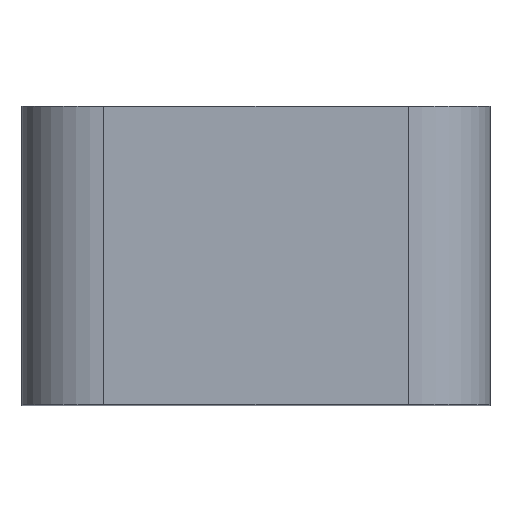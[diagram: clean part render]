
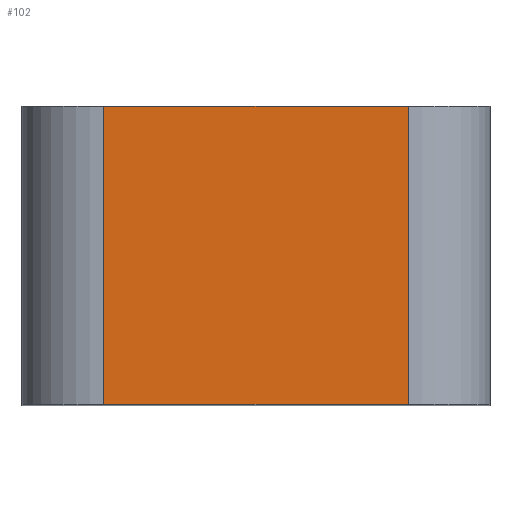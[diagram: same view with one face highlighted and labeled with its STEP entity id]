
A CAD part, top view. The second image highlights one B-rep face of the part: STEP entity #102.
In plain terms, the highlighted planar face has unit normal (0, 0, 1).
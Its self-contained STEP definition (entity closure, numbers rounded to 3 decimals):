
#102 = ADVANCED_FACE( '', ( #187 ), #188, .T. );
#187 = FACE_OUTER_BOUND( '', #296, .T. );
#188 = PLANE( '', #297 );
#296 = EDGE_LOOP( '', ( #579, #580, #581, #582 ) );
#297 = AXIS2_PLACEMENT_3D( '', #583, #584, #585 );
#579 = ORIENTED_EDGE( '', *, *, #815, .F. );
#580 = ORIENTED_EDGE( '', *, *, #816, .T. );
#581 = ORIENTED_EDGE( '', *, *, #733, .T. );
#582 = ORIENTED_EDGE( '', *, *, #814, .T. );
#583 = CARTESIAN_POINT( '', ( -16., 5.1, 7. ) );
#584 = DIRECTION( '', ( 0., 0., 1. ) );
#585 = DIRECTION( '', ( 1., 0., 0. ) );
#733 = EDGE_CURVE( '', #866, #867, #868, .T. );
#814 = EDGE_CURVE( '', #867, #1002, #1004, .F. );
#815 = EDGE_CURVE( '', #1005, #1002, #1006, .T. );
#816 = EDGE_CURVE( '', #1005, #866, #1007, .T. );
#866 = VERTEX_POINT( '', #1076 );
#867 = VERTEX_POINT( '', #1077 );
#868 = LINE( '', #1078, #1079 );
#1002 = VERTEX_POINT( '', #1280 );
#1004 = LINE( '', #1282, #1283 );
#1005 = VERTEX_POINT( '', #1284 );
#1006 = LINE( '', #1285, #1286 );
#1007 = LINE( '', #1287, #1288 );
#1076 = CARTESIAN_POINT( '', ( -13.2, -5.1, 7. ) );
#1077 = CARTESIAN_POINT( '', ( -2.8, -5.1, 7. ) );
#1078 = CARTESIAN_POINT( '', ( -16., -5.1, 7. ) );
#1079 = VECTOR( '', #1351, 1000. );
#1280 = CARTESIAN_POINT( '', ( -2.8, 5.1, 7. ) );
#1282 = CARTESIAN_POINT( '', ( -2.8, 5.1, 7. ) );
#1283 = VECTOR( '', #1458, 1000. );
#1284 = CARTESIAN_POINT( '', ( -13.2, 5.1, 7. ) );
#1285 = CARTESIAN_POINT( '', ( -16., 5.1, 7. ) );
#1286 = VECTOR( '', #1459, 1000. );
#1287 = CARTESIAN_POINT( '', ( -13.2, -5.1, 7. ) );
#1288 = VECTOR( '', #1460, 1000. );
#1351 = DIRECTION( '', ( 1., 0., 0. ) );
#1458 = DIRECTION( '', ( 0., -1., 0. ) );
#1459 = DIRECTION( '', ( 1., 0., 0. ) );
#1460 = DIRECTION( '', ( 0., -1., 0. ) );
